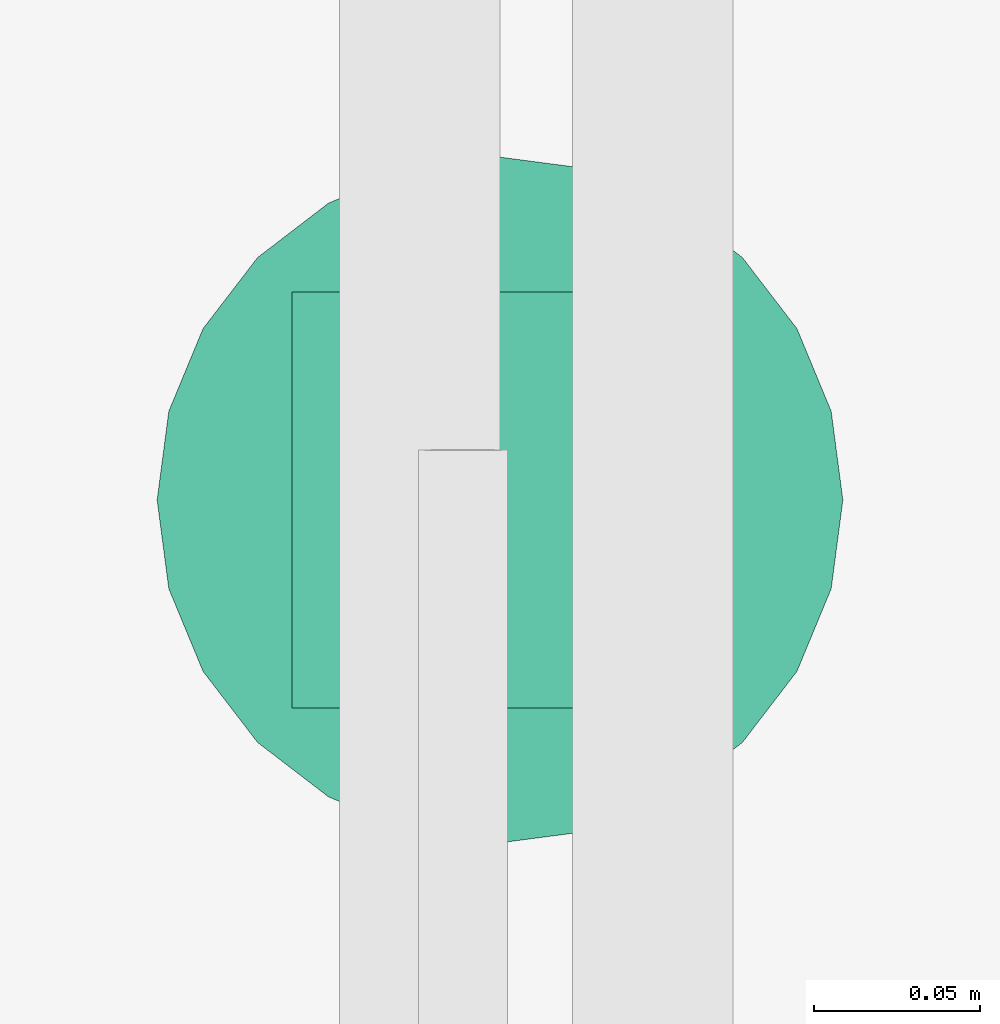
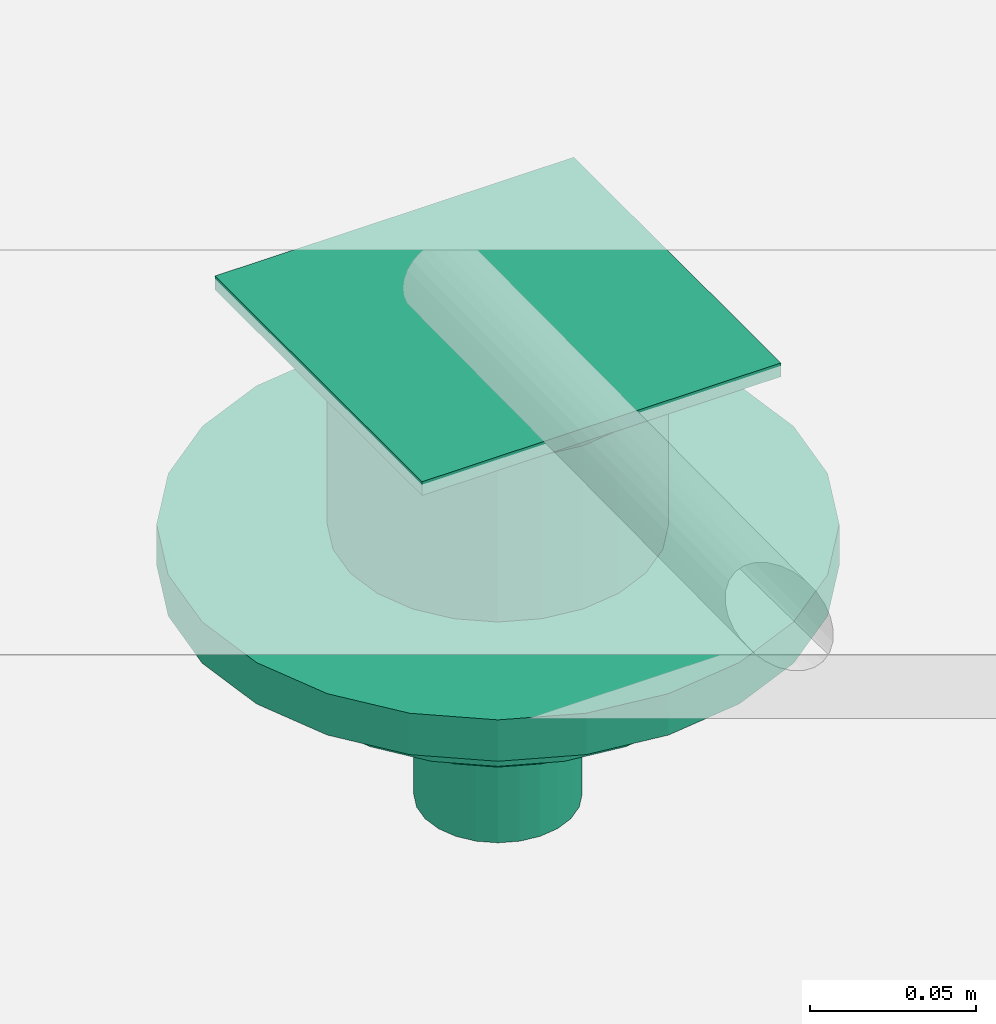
# One storey, part 91 of 94: 1 flow terminal.
"""IFC2X3 building model written with IfcOpenShell, lengths in millimetres."""

from ifc_helpers import new_model, entity, si_unit, converted_unit, derived_unit, direction, frame, origin, place, context, subcontext, project, spatial, faceted_brep, source, transform, mapped, material, type_object, type_shapes, element, save


model = new_model("IFC2X3")

# Units and contexts
model_context = context("Model", 3, precision=0.01, world=origin(), true_north=direction((6.123031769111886e-17, 1.0)))
body_context = subcontext(model_context, "Body", "Model", "MODEL_VIEW")
ifc_project = project(units=[si_unit("LENGTHUNIT", "METRE", prefix="MILLI"), si_unit("AREAUNIT", "SQUARE_METRE"), si_unit("VOLUMEUNIT", "CUBIC_METRE"), converted_unit("PLANEANGLEUNIT", "DEGREE", entity("IfcRatioMeasure", 0.017453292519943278), si_unit("PLANEANGLEUNIT", "RADIAN"), dimensions=[0, 0, 0, 0, 0, 0, 0]), si_unit("MASSUNIT", "GRAM", prefix="KILO"), derived_unit("MASSDENSITYUNIT", [(si_unit("MASSUNIT", "GRAM", prefix="KILO"), 1), (si_unit("LENGTHUNIT", "METRE"), -3)]), derived_unit("IONCONCENTRATIONUNIT", [(si_unit("MASSUNIT", "GRAM", prefix="KILO"), 1), (si_unit("LENGTHUNIT", "METRE"), -3)]), derived_unit("MOMENTOFINERTIAUNIT", [(si_unit("LENGTHUNIT", "METRE"), 4)]), si_unit("TIMEUNIT", "SECOND"), si_unit("FREQUENCYUNIT", "HERTZ"), si_unit("THERMODYNAMICTEMPERATUREUNIT", "DEGREE_CELSIUS"), derived_unit("THERMALTRANSMITTANCEUNIT", [(si_unit("MASSUNIT", "GRAM", prefix="KILO"), 1), (si_unit("THERMODYNAMICTEMPERATUREUNIT", "KELVIN"), -1), (si_unit("TIMEUNIT", "SECOND"), -3)]), derived_unit("THERMALCONDUCTANCEUNIT", [(si_unit("MASSUNIT", "GRAM", prefix="KILO"), 1), (si_unit("THERMODYNAMICTEMPERATUREUNIT", "KELVIN"), -1), (si_unit("TIMEUNIT", "SECOND"), -3), (si_unit("LENGTHUNIT", "METRE"), 1)]), derived_unit("VOLUMETRICFLOWRATEUNIT", [(si_unit("LENGTHUNIT", "METRE"), 3), (si_unit("TIMEUNIT", "SECOND"), -1)]), derived_unit("MASSFLOWRATEUNIT", [(si_unit("MASSUNIT", "GRAM", prefix="KILO"), 1), (si_unit("TIMEUNIT", "SECOND"), -1)]), derived_unit("ROTATIONALFREQUENCYUNIT", [(si_unit("TIMEUNIT", "SECOND"), -1)]), si_unit("ELECTRICCURRENTUNIT", "AMPERE"), si_unit("ELECTRICVOLTAGEUNIT", "VOLT"), si_unit("POWERUNIT", "WATT"), si_unit("FORCEUNIT", "NEWTON", prefix="KILO"), si_unit("ILLUMINANCEUNIT", "LUX"), si_unit("LUMINOUSFLUXUNIT", "LUMEN"), si_unit("LUMINOUSINTENSITYUNIT", "CANDELA"), derived_unit("USERDEFINED", [(si_unit("MASSUNIT", "GRAM", prefix="KILO"), -1), (si_unit("LENGTHUNIT", "METRE"), -2), (si_unit("TIMEUNIT", "SECOND"), 3), (si_unit("LUMINOUSFLUXUNIT", "LUMEN"), 1)]), derived_unit("USERDEFINED", [(si_unit("MASSUNIT", "GRAM", prefix="KILO"), 1), (si_unit("TIMEUNIT", "SECOND"), -3), (si_unit("LENGTHUNIT", "METRE"), 3), (si_unit("ELECTRICCURRENTUNIT", "AMPERE"), -2)]), derived_unit("SOUNDPOWERUNIT", [(si_unit("MASSUNIT", "GRAM", prefix="KILO"), 1), (si_unit("TIMEUNIT", "SECOND"), -3), (si_unit("LENGTHUNIT", "METRE"), 2)]), derived_unit("SOUNDPRESSUREUNIT", [(si_unit("MASSUNIT", "GRAM", prefix="KILO"), 1), (si_unit("LENGTHUNIT", "METRE"), -1), (si_unit("TIMEUNIT", "SECOND"), -2)]), derived_unit("LINEARVELOCITYUNIT", [(si_unit("LENGTHUNIT", "METRE"), 1), (si_unit("TIMEUNIT", "SECOND"), -1)]), si_unit("PRESSUREUNIT", "PASCAL"), derived_unit("USERDEFINED", [(si_unit("MASSUNIT", "GRAM", prefix="KILO"), 1), (si_unit("LENGTHUNIT", "METRE"), -2), (si_unit("TIMEUNIT", "SECOND"), -2)]), derived_unit("LINEARFORCEUNIT", [(si_unit("MASSUNIT", "GRAM", prefix="KILO"), 1), (si_unit("TIMEUNIT", "SECOND"), -2)]), derived_unit("PLANARFORCEUNIT", [(si_unit("MASSUNIT", "GRAM", prefix="KILO"), 1), (si_unit("LENGTHUNIT", "METRE"), -1), (si_unit("TIMEUNIT", "SECOND"), -2)]), derived_unit("SPECIFICHEATCAPACITYUNIT", [(si_unit("THERMODYNAMICTEMPERATUREUNIT", "KELVIN"), -1), (si_unit("LENGTHUNIT", "METRE"), 2), (si_unit("TIMEUNIT", "SECOND"), -2)]), derived_unit("HEATINGVALUEUNIT", [(si_unit("LENGTHUNIT", "METRE"), 2), (si_unit("TIMEUNIT", "SECOND"), -2)]), derived_unit("VAPORPERMEABILITYUNIT", [(si_unit("LENGTHUNIT", "METRE"), -1), (si_unit("TIMEUNIT", "SECOND"), 1)]), derived_unit("DYNAMICVISCOSITYUNIT", [(si_unit("MASSUNIT", "GRAM", prefix="KILO"), 1), (si_unit("TIMEUNIT", "SECOND"), -1), (si_unit("LENGTHUNIT", "METRE"), -1)]), derived_unit("THERMALEXPANSIONCOEFFICIENTUNIT", [(si_unit("THERMODYNAMICTEMPERATUREUNIT", "KELVIN"), -1)]), derived_unit("MODULUSOFELASTICITYUNIT", [(si_unit("MASSUNIT", "GRAM", prefix="KILO"), 1), (si_unit("LENGTHUNIT", "METRE"), -1), (si_unit("TIMEUNIT", "SECOND"), -2)]), derived_unit("ISOTHERMALMOISTURECAPACITYUNIT", [(si_unit("LENGTHUNIT", "METRE"), 3), (si_unit("MASSUNIT", "GRAM", prefix="KILO"), -1)]), derived_unit("MOISTUREDIFFUSIVITYUNIT", [(si_unit("TIMEUNIT", "SECOND"), -1), (si_unit("LENGTHUNIT", "METRE"), 2)])], contexts=[model_context])

# Site, building, storey
site_placement = place(None, origin())
site = spatial("IfcSite", under=ifc_project, at=site_placement, Name="Default", CompositionType="ELEMENT")
building_placement = place(site_placement, origin())
building = spatial("IfcBuilding", under=site, at=building_placement, CompositionType="ELEMENT")
storey_placement = place(building_placement, origin())
storey = spatial("IfcBuildingStorey", under=building, at=storey_placement, Name="Niveau 0", CompositionType="ELEMENT", Elevation=0.0)

# Flow terminal
ifc_material = material(Name="<Unnamed>")
distribution_element_type = type_object("IfcDistributionElementType", Name="Siphon de sol - Rectangulaire:Filtre à tamis 125 mmx125 mm - Tuyau d'évacuation 50 mm", material=ifc_material)
shared_shape = source(origin(), body_context, "Body", "Brep", [
    faceted_brep([(31.249999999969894, -54.126587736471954, -5.080000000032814), (44.194173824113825, -44.19417382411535, -5.0800000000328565), (54.126587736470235, -31.249999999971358, -5.0800000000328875), (60.37036414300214, -16.17619031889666, -5.080000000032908), (62.50000000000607, 0.0, -5.080000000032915), (62.5000000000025, -62.50000000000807, -5.080000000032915), (0.0, -62.4999999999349, -5.080000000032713), (16.176190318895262, -60.370364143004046, -5.080000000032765), (16.176190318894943, 60.37036414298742, -5.080000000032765), (0.0, 62.49999999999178, -5.080000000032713), (62.5000000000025, 62.49999999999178, -5.080000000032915), (60.37036414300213, 16.176190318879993, -5.080000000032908), (54.12658773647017, 31.249999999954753, -5.0800000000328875), (44.19417382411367, 44.1941738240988, -5.0800000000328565), (31.249999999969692, 54.12658773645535, -5.080000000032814), (-62.499999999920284, 0.0, -5.08000000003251), (-60.370364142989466, -16.176190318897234, -5.080000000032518), (-54.12658773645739, -31.249999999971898, -5.080000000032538), (-44.19417382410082, -44.19417382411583, -5.08000000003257), (-31.249999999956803, -54.12658773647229, -5.080000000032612), (-16.176190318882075, -60.37036414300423, -5.080000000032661), (-62.49999999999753, -62.50000000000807, -5.08000000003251), (-62.49999999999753, 62.49999999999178, -5.08000000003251), (-16.176190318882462, 60.37036414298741, -5.080000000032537), (-31.24999999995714, 54.12658773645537, -5.080000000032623), (-44.19417382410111, 44.19417382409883, -5.08000000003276), (-54.12658773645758, 31.249999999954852, -5.08000000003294), (-60.37036414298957, 16.176190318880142, -5.080000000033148), (-25.750000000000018, 44.600308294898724, -75.37999999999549), (-13.329180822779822, 49.74518005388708, -75.37999999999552), (-51.49999999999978, 89.20061658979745, -75.3799999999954), (-72.83199846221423, 72.8319984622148, -75.37999999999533), (-36.415999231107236, 36.4159992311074, -75.37999999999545), (-26.658361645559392, 99.49036010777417, -75.37999999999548), (0.0, 51.5, -75.37999999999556), (0.0, 103.0, -75.37999999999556), (13.329180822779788, 49.74518005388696, -75.37999999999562), (26.65836164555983, 99.49036010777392, -75.37999999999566), (25.749999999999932, 44.60030829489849, -75.37999999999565), (51.50000000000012, 89.20061658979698, -75.37999999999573), (36.415999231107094, 36.415999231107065, -75.37999999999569), (72.83199846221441, 72.83199846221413, -75.3799999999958), (44.60030829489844, 25.749999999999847, -75.3799999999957), (89.20061658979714, 51.49999999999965, -75.37999999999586), (49.7451800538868, 13.329180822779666, -75.37999999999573), (99.49036010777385, 26.65836164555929, -75.37999999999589), (51.499999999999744, 0.0, -75.37999999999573), (103.0, 0.0, -75.3799999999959), (49.745180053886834, -13.329180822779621, -75.37999999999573), (99.49036010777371, -26.65836164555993, -75.37999999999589), (44.600308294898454, -25.74999999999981, -75.3799999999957), (89.2006165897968, -51.50000000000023, -75.37999999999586), (72.83199846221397, -72.83199846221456, -75.3799999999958), (36.41599923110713, -36.41599923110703, -75.37999999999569), (51.49999999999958, -89.2006165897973, -75.37999999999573), (25.749999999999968, -44.60030829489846, -75.37999999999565), (26.65836164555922, -99.49036010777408, -75.37999999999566), (13.32918082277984, -49.74518005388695, -75.37999999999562), (0.0, -103.0, -75.37999999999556), (0.0, -51.5, -75.37999999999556), (-26.658361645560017, -99.49036010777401, -75.37999999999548), (-13.329180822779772, -49.7451800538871, -75.37999999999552), (-51.50000000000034, -89.20061658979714, -75.3799999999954), (-25.749999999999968, -44.60030829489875, -75.37999999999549), (-72.8319984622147, -72.83199846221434, -75.37999999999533), (-36.415999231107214, -36.41599923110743, -75.37999999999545), (-89.20061658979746, -51.49999999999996, -75.37999999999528), (-44.60030829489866, -25.750000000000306, -75.37999999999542), (-99.4903601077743, -26.658361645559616, -75.37999999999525), (-49.74518005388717, -13.329180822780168, -75.3799999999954), (-103.0, 0.0, -75.37999999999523), (-51.50000000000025, 0.0, -75.3799999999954), (-99.49036010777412, 26.658361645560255, -75.37999999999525), (-49.74518005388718, 13.329180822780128, -75.3799999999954), (-89.20061658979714, 51.500000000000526, -75.37999999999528), (-44.60030829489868, 25.750000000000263, -75.37999999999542), (-26.658361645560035, -99.49036010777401, -83.0), (-51.50000000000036, -89.20061658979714, -83.0), (-72.83199846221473, -72.83199846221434, -83.0), (-89.20061658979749, -51.49999999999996, -83.0), (-99.49036010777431, -26.658361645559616, -83.0), (-103.0, 0.0, -83.0), (-99.49036010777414, 26.658361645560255, -83.0), (-89.20061658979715, 51.500000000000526, -83.0), (-72.83199846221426, 72.8319984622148, -83.0), (-51.49999999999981, 89.20061658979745, -83.0), (-26.658361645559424, 99.49036010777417, -83.0), (0.0, 103.0, -83.0), (26.658361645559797, 99.49036010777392, -83.0), (51.50000000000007, 89.20061658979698, -83.0), (72.83199846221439, 72.83199846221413, -83.0), (89.20061658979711, 51.49999999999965, -83.0), (99.49036010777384, 26.65836164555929, -83.0), (103.0, 0.0, -83.0), (99.4903601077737, -26.65836164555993, -83.0), (89.20061658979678, -51.50000000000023, -83.0), (72.83199846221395, -72.83199846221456, -83.0), (51.49999999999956, -89.2006165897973, -83.0), (26.658361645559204, -99.49036010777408, -83.0), (0.0, -103.0, -83.0), (44.60030829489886, 25.74999999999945, -15.239999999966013), (36.415999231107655, 36.415999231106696, -15.239999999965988), (25.750000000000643, 44.600308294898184, -15.239999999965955), (13.329180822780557, 49.745180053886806, -15.239999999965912), (0.0, 51.5, -15.23999999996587), (51.49999999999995, 0.0, -15.240000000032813), (49.74518005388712, 13.329180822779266, -15.239999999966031), (-13.329180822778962, 49.74518005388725, -15.239999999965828), (-25.749999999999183, 44.60030829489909, -15.239999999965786), (-36.4159992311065, 36.415999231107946, -15.239999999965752), (-44.600308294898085, 25.750000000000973, -15.239999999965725), (-49.74518005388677, 13.329180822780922, -15.23999999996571), (-51.50000000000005, 0.0, -15.2399999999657), (-49.745180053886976, -13.329180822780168, -15.23999999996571), (-44.60030829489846, -25.750000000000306, -15.239999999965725), (0.0, -51.5, -15.23999999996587), (-13.32918082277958, -49.7451800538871, -15.239999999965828), (-36.415999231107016, -36.415999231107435, -15.239999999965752), (-25.74999999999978, -44.60030829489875, -15.239999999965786), (13.32918082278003, -49.74518005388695, -15.239999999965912), (25.750000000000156, -44.600308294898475, -15.239999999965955), (36.41599923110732, -36.41599923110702, -15.239999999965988), (44.60030829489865, -25.74999999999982, -15.239999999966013), (49.745180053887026, -13.329180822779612, -15.239999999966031), (62.500000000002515, -62.50000000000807, 0.0), (62.500000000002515, 62.49999999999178, 0.0), (-62.499999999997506, 62.49999999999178, 0.0), (-62.499999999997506, -62.50000000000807, 0.0)], [[[0, 1, 2, 3, 4, 5, 6, 7]], [[8, 9, 10, 4, 11, 12, 13, 14]], [[15, 16, 17, 18, 19, 20, 6, 21]], [[22, 9, 23, 24, 25, 26, 27, 15]], [[28, 29, 30]], [[31, 28, 30]], [[28, 31, 32]], [[29, 33, 30]], [[33, 29, 34]], [[33, 34, 35]], [[36, 35, 34]], [[35, 36, 37]], [[36, 38, 37]], [[39, 37, 38]], [[40, 39, 38]], [[39, 40, 41]], [[42, 41, 40]], [[43, 41, 42]], [[44, 43, 42]], [[45, 43, 44]], [[45, 44, 46]], [[45, 46, 47]], [[47, 46, 48]], [[47, 48, 49]], [[49, 48, 50]], [[49, 50, 51]], [[52, 51, 50]], [[52, 50, 53]], [[53, 54, 52]], [[53, 55, 54]], [[56, 54, 55]], [[57, 56, 55]], [[57, 58, 56]], [[58, 57, 59]], [[59, 60, 58]], [[61, 60, 59]], [[60, 61, 62]], [[63, 62, 61]], [[64, 62, 63]], [[64, 63, 65]], [[64, 65, 66]], [[66, 65, 67]], [[66, 67, 68]], [[69, 68, 67]], [[70, 68, 69]], [[69, 71, 70]], [[71, 72, 70]], [[72, 71, 73]], [[72, 73, 74]], [[73, 75, 74]], [[32, 74, 75]], [[31, 74, 32]], [[76, 77, 78, 79, 80, 81, 82, 83, 84, 85, 86, 87, 88, 89, 90, 91, 92, 93, 94, 95, 96, 97, 98, 99]], [[92, 45, 47, 93]], [[91, 43, 45, 92]], [[39, 41, 90, 89]], [[91, 90, 41, 43]], [[37, 39, 89, 88]], [[35, 37, 88, 87]], [[86, 33, 35, 87]], [[85, 30, 33, 86]], [[74, 31, 84, 83]], [[85, 84, 31, 30]], [[72, 74, 83, 82]], [[70, 72, 82, 81]], [[80, 68, 70, 81]], [[79, 66, 68, 80]], [[62, 64, 78, 77]], [[79, 78, 64, 66]], [[60, 62, 77, 76]], [[58, 60, 76, 99]], [[98, 56, 58, 99]], [[97, 54, 56, 98]], [[94, 93, 47, 49]], [[96, 52, 54, 97]], [[51, 95, 94, 49]], [[51, 52, 96, 95]], [[100, 42, 40, 101]], [[102, 38, 36, 103]], [[40, 38, 102, 101]], [[103, 36, 34, 104]], [[105, 46, 44, 106]], [[106, 44, 42, 100]], [[107, 29, 28, 108]], [[32, 109, 108, 28]], [[110, 75, 73, 111]], [[32, 75, 110, 109]], [[111, 73, 71, 112]], [[29, 107, 104, 34]], [[69, 113, 112, 71]], [[67, 114, 113, 69]], [[61, 59, 115, 116]], [[65, 117, 114, 67]], [[118, 63, 61, 116]], [[118, 117, 65, 63]], [[119, 57, 55, 120]], [[53, 121, 120, 55]], [[122, 50, 48, 123]], [[53, 50, 122, 121]], [[123, 48, 46, 105]], [[57, 119, 115, 59]], [[27, 111, 112, 15]], [[26, 110, 111, 27]], [[108, 109, 25, 24]], [[26, 25, 109, 110]], [[107, 108, 24, 23]], [[104, 107, 23, 9]], [[8, 103, 104, 9]], [[14, 102, 103, 8]], [[100, 101, 13, 12]], [[14, 13, 101, 102]], [[106, 100, 12, 11]], [[105, 106, 11, 4]], [[3, 123, 105, 4]], [[2, 122, 123, 3]], [[120, 121, 1, 0]], [[2, 1, 121, 122]], [[119, 120, 0, 7]], [[115, 119, 7, 6]], [[20, 116, 115, 6]], [[19, 118, 116, 20]], [[114, 117, 18, 17]], [[19, 18, 117, 118]], [[113, 114, 17, 16]], [[112, 113, 16, 15]], [[124, 125, 126, 127]], [[126, 125, 10, 9, 22]], [[127, 126, 22, 15, 21]], [[124, 127, 21, 6, 5]], [[125, 124, 5, 4, 10]]]),
    faceted_brep([(-26.658361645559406, 99.49036010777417, -83.0), (-51.49999999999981, 89.20061658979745, -83.0), (-72.83199846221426, 72.8319984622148, -83.0), (-89.20061658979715, 51.500000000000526, -83.0), (-99.49036010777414, 26.658361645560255, -83.0), (-103.0, 0.0, -83.0), (-99.49036010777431, -26.658361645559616, -83.0), (-89.20061658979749, -51.49999999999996, -83.0), (-72.83199846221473, -72.83199846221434, -83.0), (-51.50000000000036, -89.20061658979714, -83.0), (-26.658361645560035, -99.49036010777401, -83.0), (0.0, -103.0, -83.0), (26.658361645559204, -99.49036010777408, -83.0), (51.49999999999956, -89.2006165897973, -83.0), (72.83199846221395, -72.83199846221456, -83.0), (89.20061658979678, -51.50000000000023, -83.0), (99.4903601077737, -26.65836164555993, -83.0), (103.0, 0.0, -83.0), (99.49036010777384, 26.65836164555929, -83.0), (89.20061658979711, 51.49999999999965, -83.0), (72.83199846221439, 72.83199846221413, -83.0), (51.50000000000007, 89.20061658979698, -83.0), (26.658361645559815, 99.49036010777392, -83.0), (0.0, 103.0, -83.0), (-51.50000000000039, -89.20061658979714, -90.62000000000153), (-72.83199846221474, -72.83199846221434, -90.62000000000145), (-38.566666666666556, -66.79942614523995, -90.62000000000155), (-19.963575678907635, -74.50507873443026, -90.62000000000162), (-26.658361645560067, -99.49036010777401, -90.62000000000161), (-54.54150305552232, -54.54150305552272, -90.62000000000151), (-89.2006165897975, -51.49999999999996, -90.62000000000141), (-66.79942614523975, -38.56666666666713, -90.62000000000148), (-74.5050787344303, -19.963575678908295, -90.62000000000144), (-99.49036010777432, -26.658361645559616, -90.62000000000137), (-77.13333333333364, 0.0, -90.62000000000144), (-103.0, 0.0, -90.62000000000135), (-74.50507873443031, 19.96357567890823, -90.62000000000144), (-99.49036010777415, 26.658361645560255, -90.62000000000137), (-66.79942614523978, 38.56666666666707, -90.62000000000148), (-89.20061658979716, 51.500000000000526, -90.62000000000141), (-54.54150305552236, 54.541503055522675, -90.62000000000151), (-72.83199846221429, 72.8319984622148, -90.62000000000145), (-38.56666666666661, 66.7994261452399, -90.62000000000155), (-51.49999999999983, 89.20061658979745, -90.62000000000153), (-19.963575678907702, 74.50507873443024, -90.62000000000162), (-26.65836164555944, 99.49036010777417, -90.62000000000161), (0.0, 77.13333333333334, -90.6200000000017), (0.0, 103.0, -90.6200000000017), (19.963575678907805, 74.50507873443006, -90.62000000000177), (26.65836164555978, 99.49036010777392, -90.62000000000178), (38.56666666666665, 66.79942614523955, -90.62000000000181), (51.50000000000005, 89.20061658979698, -90.62000000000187), (54.541503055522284, 54.54150305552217, -90.62000000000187), (72.83199846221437, 72.83199846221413, -90.62000000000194), (66.79942614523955, 38.56666666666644, -90.6200000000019), (89.2006165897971, 51.49999999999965, -90.62000000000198), (99.49036010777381, 26.65836164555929, -90.62000000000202), (74.5050787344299, 19.963575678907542, -90.62000000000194), (103.0, 0.0, -90.62000000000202), (77.13333333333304, 0.0, -90.62000000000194), (99.49036010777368, -26.65836164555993, -90.62000000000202), (74.50507873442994, -19.963575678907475, -90.62000000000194), (89.20061658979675, -51.50000000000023, -90.62000000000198), (66.7994261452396, -38.566666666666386, -90.6200000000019), (72.83199846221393, -72.83199846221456, -90.62000000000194), (54.54150305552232, -54.541503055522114, -90.62000000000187), (51.49999999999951, -89.2006165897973, -90.62000000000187), (38.5666666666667, -66.79942614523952, -90.62000000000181), (26.65836164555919, -99.49036010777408, -90.62000000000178), (19.963575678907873, -74.50507873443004, -90.62000000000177), (0.0, -103.0, -90.6200000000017), (0.0, -77.13333333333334, -90.6200000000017), (-38.566666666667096, -66.79942614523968, -110.59999999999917), (-54.54150305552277, -54.541503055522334, -110.59999999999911), (-25.633333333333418, -44.398235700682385, -110.59999999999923), (-13.268789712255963, -49.51979736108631, -110.59999999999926), (-19.963575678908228, -74.50507873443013, -110.59999999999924), (-36.251007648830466, -36.25100764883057, -110.59999999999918), (-66.79942614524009, -38.56666666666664, -110.59999999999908), (-44.39823570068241, -25.633333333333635, -110.59999999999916), (-49.519797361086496, -13.268789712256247, -110.59999999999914), (-74.5050787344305, -19.963575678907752, -110.59999999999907), (-51.26666666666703, 0.0, -110.59999999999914), (-77.1333333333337, 0.0, -110.59999999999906), (-49.51979736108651, 13.268789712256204, -110.59999999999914), (-74.50507873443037, 19.96357567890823, -110.59999999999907), (-44.39823570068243, 25.633333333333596, -110.59999999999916), (-66.79942614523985, 38.56666666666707, -110.59999999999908), (-36.251007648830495, 36.25100764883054, -110.59999999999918), (-54.54150305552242, 54.541503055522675, -110.59999999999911), (-25.63333333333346, 44.398235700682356, -110.59999999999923), (-38.56666666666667, 66.7994261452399, -110.59999999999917), (-13.268789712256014, 49.519797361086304, -110.59999999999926), (-19.96357567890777, 74.50507873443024, -110.59999999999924), (0.0, 51.26666666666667, -110.59999999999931), (0.0, 77.13333333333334, -110.59999999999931), (13.26878971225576, 49.51979736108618, -110.59999999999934), (19.963575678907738, 74.50507873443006, -110.59999999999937), (25.63333333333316, 44.39823570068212, -110.59999999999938), (38.56666666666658, 66.79942614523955, -110.59999999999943), (36.25100764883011, 36.2510076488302, -110.59999999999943), (54.54150305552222, 54.54150305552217, -110.59999999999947), (44.39823570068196, 25.633333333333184, -110.59999999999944), (66.79942614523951, 38.56666666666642, -110.59999999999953), (74.50507873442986, 19.963575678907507, -110.59999999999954), (49.51979736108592, 13.268789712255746, -110.59999999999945), (77.13333333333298, 0.0, -110.59999999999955), (51.26666666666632, 0.0, -110.59999999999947), (74.50507873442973, -19.963575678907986, -110.59999999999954), (49.51979736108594, -13.268789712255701, -110.59999999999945), (66.79942614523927, -38.56666666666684, -110.59999999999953), (44.39823570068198, -25.633333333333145, -110.59999999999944), (54.54150305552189, -54.5415030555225, -110.59999999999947), (36.25100764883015, -36.251007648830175, -110.59999999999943), (38.56666666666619, -66.79942614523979, -110.59999999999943), (25.63333333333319, -44.3982357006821, -110.59999999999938), (19.96357567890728, -74.50507873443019, -110.59999999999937), (13.268789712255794, -49.51979736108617, -110.59999999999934), (0.0, -77.13333333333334, -110.59999999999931), (0.0, -51.26666666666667, -110.59999999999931), (-6.574003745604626, -24.534515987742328, -175.0), (-12.700000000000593, -21.997045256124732, -175.0), (-17.96051224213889, -17.960512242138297, -175.0), (-21.997045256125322, -12.699999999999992, -175.0), (-24.534515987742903, -6.574003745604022, -175.0), (-25.40000000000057, 0.0, -175.0), (-24.53451598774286, 6.57400374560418, -175.0), (-21.997045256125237, 12.70000000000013, -175.0), (-17.960512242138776, 17.96051224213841, -175.0), (-12.700000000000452, 21.997045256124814, -175.0), (-6.574003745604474, 24.53451598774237, -175.0), (0.0, 25.400000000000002, -175.0), (6.5740037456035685, 24.534515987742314, -175.0), (12.699999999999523, 21.997045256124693, -175.0), (17.960512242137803, 17.960512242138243, -175.0), (21.997045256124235, 12.699999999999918, -175.0), (24.53451598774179, 6.574003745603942, -175.0), (25.399999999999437, 0.0, -175.0), (24.53451598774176, -6.5740037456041, -175.0), (21.99704525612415, -12.70000000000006, -175.0), (17.960512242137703, -17.96051224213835, -175.0), (12.699999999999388, -21.99704525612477, -175.0), (6.574003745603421, -24.53451598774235, -175.0), (0.0, -25.400000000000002, -175.0), (24.534515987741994, 6.574003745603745, -129.0), (21.997045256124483, 12.699999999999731, -129.0), (17.96051224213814, 17.96051224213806, -129.0), (12.699999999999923, 21.997045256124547, -129.0), (6.574003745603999, 24.534515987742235, -129.0), (0.0, 25.400000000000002, -129.0), (25.399999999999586, 0.0, -129.0), (-6.574003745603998, 24.534515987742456, -129.0), (-12.699999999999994, 21.99704525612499, -129.0), (-17.960512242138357, 17.96051224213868, -129.0), (-21.997045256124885, 12.700000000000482, -129.0), (-24.5345159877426, 6.574003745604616, -129.0), (-25.40000000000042, 0.0, -129.0), (-24.534515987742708, -6.574003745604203, -129.0), (-21.99704525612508, -12.700000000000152, -129.0), (0.0, -25.400000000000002, -129.0), (-6.574003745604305, -24.534515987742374, -129.0), (-17.960512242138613, -17.960512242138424, -129.0), (-12.700000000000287, -21.99704525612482, -129.0), (6.574003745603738, -24.534515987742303, -129.0), (12.699999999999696, -21.997045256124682, -129.0), (17.960512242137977, -17.960512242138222, -129.0), (21.997045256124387, -12.699999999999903, -129.0), (24.534515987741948, -6.574003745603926, -129.0), (-25.633333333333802, -44.3982357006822, -129.0), (-36.25100764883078, -36.25100764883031, -129.0), (-13.268789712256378, -49.51979736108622, -129.0), (0.0, -51.26666666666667, -129.0), (13.268789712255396, -49.51979736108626, -129.0), (25.63333333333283, -44.39823570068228, -129.0), (36.251007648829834, -36.251007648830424, -129.0), (44.39823570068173, -25.63333333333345, -129.0), (49.51979736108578, -13.268789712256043, -129.0), (51.266666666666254, 0.0, -129.0), (49.519797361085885, 13.268789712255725, -129.0), (44.3982357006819, 25.633333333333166, -129.0), (36.251007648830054, 36.2510076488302, -129.0), (25.6333333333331, 44.39823570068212, -129.0), (13.268789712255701, 49.51979736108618, -129.0), (0.0, 51.26666666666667, -129.0), (-13.268789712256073, 49.519797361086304, -129.0), (-25.63333333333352, 44.398235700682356, -129.0), (-36.25100764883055, 36.25100764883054, -129.0), (-44.398235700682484, 25.633333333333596, -129.0), (-49.51979736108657, 13.268789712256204, -129.0), (-51.266666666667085, 0.0, -129.0), (-49.51979736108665, -13.268789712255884, -129.0), (-44.398235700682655, -25.633333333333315, -129.0)], [[[0, 1, 2, 3, 4, 5, 6, 7, 8, 9, 10, 11, 12, 13, 14, 15, 16, 17, 18, 19, 20, 21, 22, 23]], [[24, 25, 26]], [[24, 26, 27]], [[27, 28, 24]], [[26, 25, 29]], [[30, 29, 25]], [[31, 29, 30]], [[32, 31, 30]], [[32, 30, 33]], [[32, 33, 34]], [[34, 33, 35]], [[36, 34, 35]], [[36, 35, 37]], [[38, 36, 37]], [[38, 37, 39]], [[40, 38, 39]], [[39, 41, 40]], [[41, 42, 40]], [[42, 41, 43]], [[42, 43, 44]], [[45, 44, 43]], [[44, 45, 46]], [[46, 45, 47]], [[47, 48, 46]], [[48, 47, 49]], [[48, 49, 50]], [[51, 50, 49]], [[51, 52, 50]], [[51, 53, 52]], [[54, 52, 53]], [[55, 54, 53]], [[56, 54, 55]], [[57, 54, 56]], [[57, 56, 58]], [[58, 59, 57]], [[60, 59, 58]], [[60, 61, 59]], [[61, 60, 62]], [[63, 61, 62]], [[63, 62, 64]], [[63, 64, 65]], [[64, 66, 65]], [[65, 66, 67]], [[67, 66, 68]], [[68, 69, 67]], [[70, 69, 68]], [[28, 71, 70]], [[69, 70, 71]], [[28, 27, 71]], [[56, 18, 17, 58]], [[55, 19, 18, 56]], [[21, 20, 53, 51]], [[55, 53, 20, 19]], [[22, 21, 51, 49]], [[23, 22, 49, 47]], [[45, 0, 23, 47]], [[43, 1, 0, 45]], [[3, 2, 41, 39]], [[43, 41, 2, 1]], [[4, 3, 39, 37]], [[5, 4, 37, 35]], [[33, 6, 5, 35]], [[30, 7, 6, 33]], [[9, 8, 25, 24]], [[30, 25, 8, 7]], [[10, 9, 24, 28]], [[11, 10, 28, 70]], [[68, 12, 11, 70]], [[66, 13, 12, 68]], [[60, 58, 17, 16]], [[64, 14, 13, 66]], [[15, 62, 60, 16]], [[15, 14, 64, 62]], [[72, 73, 74]], [[72, 74, 75]], [[75, 76, 72]], [[74, 73, 77]], [[78, 77, 73]], [[79, 77, 78]], [[80, 79, 78]], [[80, 78, 81]], [[80, 81, 82]], [[82, 81, 83]], [[84, 82, 83]], [[84, 83, 85]], [[86, 84, 85]], [[86, 85, 87]], [[88, 86, 87]], [[87, 89, 88]], [[89, 90, 88]], [[90, 89, 91]], [[90, 91, 92]], [[93, 92, 91]], [[92, 93, 94]], [[94, 93, 95]], [[95, 96, 94]], [[96, 95, 97]], [[96, 97, 98]], [[99, 98, 97]], [[99, 100, 98]], [[99, 101, 100]], [[102, 100, 101]], [[103, 102, 101]], [[104, 102, 103]], [[105, 102, 104]], [[105, 104, 106]], [[106, 107, 105]], [[108, 107, 106]], [[108, 109, 107]], [[109, 108, 110]], [[111, 109, 110]], [[111, 110, 112]], [[111, 112, 113]], [[112, 114, 113]], [[113, 114, 115]], [[115, 114, 116]], [[116, 117, 115]], [[118, 117, 116]], [[76, 119, 118]], [[117, 118, 119]], [[76, 75, 119]], [[104, 57, 59, 106]], [[103, 54, 57, 104]], [[50, 52, 101, 99]], [[103, 101, 52, 54]], [[48, 50, 99, 97]], [[46, 48, 97, 95]], [[93, 44, 46, 95]], [[91, 42, 44, 93]], [[38, 40, 89, 87]], [[91, 89, 40, 42]], [[36, 38, 87, 85]], [[34, 36, 85, 83]], [[81, 32, 34, 83]], [[78, 31, 32, 81]], [[26, 29, 73, 72]], [[78, 73, 29, 31]], [[27, 26, 72, 76]], [[71, 27, 76, 118]], [[116, 69, 71, 118]], [[114, 67, 69, 116]], [[63, 65, 112, 110]], [[114, 112, 65, 67]], [[61, 63, 110, 108]], [[106, 59, 61, 108]], [[120, 121, 122, 123, 124, 125, 126, 127, 128, 129, 130, 131, 132, 133, 134, 135, 136, 137, 138, 139, 140, 141, 142, 143]], [[144, 136, 135, 145]], [[134, 146, 145, 135]], [[147, 133, 132, 148]], [[134, 133, 147, 146]], [[148, 132, 131, 149]], [[150, 137, 136, 144]], [[151, 130, 129, 152]], [[128, 153, 152, 129]], [[154, 127, 126, 155]], [[128, 127, 154, 153]], [[155, 126, 125, 156]], [[130, 151, 149, 131]], [[124, 157, 156, 125]], [[123, 158, 157, 124]], [[120, 143, 159, 160]], [[122, 161, 158, 123]], [[162, 121, 120, 160]], [[121, 162, 161, 122]], [[163, 142, 141, 164]], [[140, 165, 164, 141]], [[166, 139, 138, 167]], [[140, 139, 166, 165]], [[167, 138, 137, 150]], [[142, 163, 159, 143]], [[162, 160, 168]], [[169, 162, 168]], [[162, 169, 161]], [[160, 170, 168]], [[170, 160, 159]], [[170, 159, 171]], [[163, 171, 159]], [[171, 163, 172]], [[163, 164, 172]], [[173, 172, 164]], [[165, 173, 164]], [[173, 165, 174]], [[166, 174, 165]], [[175, 174, 166]], [[167, 175, 166]], [[176, 175, 167]], [[176, 167, 150]], [[176, 150, 177]], [[177, 150, 144]], [[177, 144, 178]], [[178, 144, 145]], [[178, 145, 179]], [[180, 179, 145]], [[180, 145, 146]], [[146, 181, 180]], [[146, 147, 181]], [[182, 181, 147]], [[148, 182, 147]], [[148, 183, 182]], [[183, 148, 149]], [[149, 184, 183]], [[151, 184, 149]], [[184, 151, 185]], [[152, 185, 151]], [[186, 185, 152]], [[186, 152, 153]], [[186, 153, 187]], [[187, 153, 154]], [[187, 154, 188]], [[155, 188, 154]], [[189, 188, 155]], [[155, 156, 189]], [[156, 190, 189]], [[190, 156, 157]], [[190, 157, 191]], [[157, 158, 191]], [[161, 191, 158]], [[169, 191, 161]], [[178, 105, 107, 177]], [[179, 102, 105, 178]], [[98, 100, 180, 181]], [[179, 180, 100, 102]], [[96, 98, 181, 182]], [[94, 96, 182, 183]], [[184, 92, 94, 183]], [[185, 90, 92, 184]], [[86, 88, 186, 187]], [[185, 186, 88, 90]], [[84, 86, 187, 188]], [[82, 84, 188, 189]], [[190, 80, 82, 189]], [[191, 79, 80, 190]], [[74, 77, 169, 168]], [[191, 169, 77, 79]], [[75, 74, 168, 170]], [[119, 75, 170, 171]], [[172, 117, 119, 171]], [[173, 115, 117, 172]], [[111, 113, 174, 175]], [[173, 174, 113, 115]], [[109, 111, 175, 176]], [[107, 109, 176, 177]]]),
])
type_shapes(distribution_element_type, [shared_shape])
flow_terminal_placement = place(storey_placement, frame((-11845.160704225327, 8071.995151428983, 0.0), z_axis=(0.0, 0.0, 1.0), x_axis=(0.0, 1.0, 0.0)))
element("IfcFlowTerminal", 1, at=flow_terminal_placement, inside=storey, type_object=distribution_element_type, material=ifc_material, Name="Siphon de sol - Rectangulaire:Filtre à tamis 125 mmx125 mm - Tuyau d'évacuation 50 mm", ObjectType="Siphon de sol - Rectangulaire:Filtre à tamis 125 mmx125 mm - Tuyau d'évacuation 50 mm", context=body_context, shape_type="MappedRepresentation", body=[
    mapped(shared_shape, transform((0.0, 0.0, 0.0), scale=1.0)),
])

save(model, "model.ifc")
